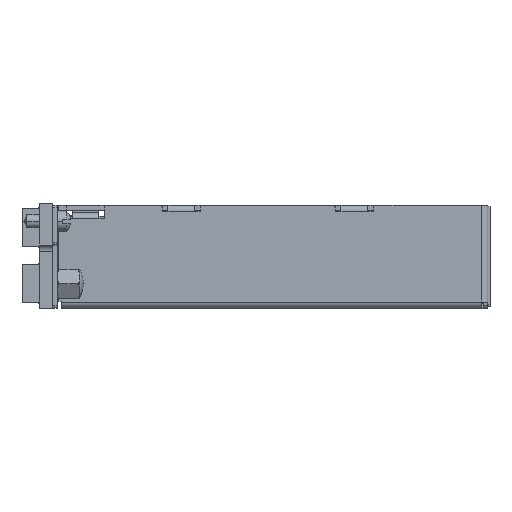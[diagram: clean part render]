
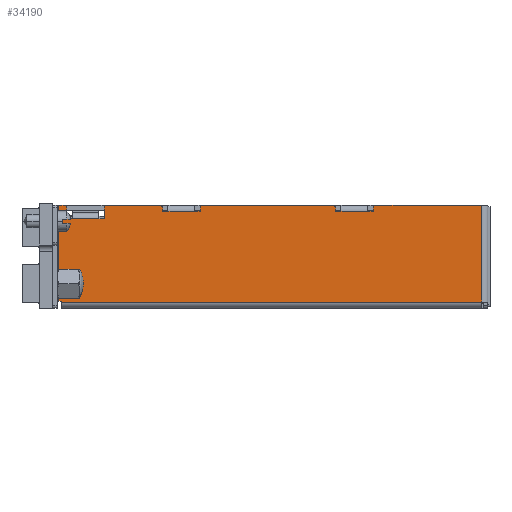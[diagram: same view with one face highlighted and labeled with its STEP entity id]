
A CAD part, front view. The second image highlights one B-rep face of the part: STEP entity #34190.
In plain terms, the highlighted planar face has unit normal (0, -1, 0).
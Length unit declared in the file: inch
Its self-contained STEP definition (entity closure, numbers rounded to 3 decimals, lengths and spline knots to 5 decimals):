
#2154=CARTESIAN_POINT('',(-3.149,0.7087,0.71099));
#2155=DIRECTION('',(0.,-1.,0.));
#2156=DIRECTION('',(1.,0.,0.));
#2157=AXIS2_PLACEMENT_3D('',#2154,#2155,#2156);
#2256=CARTESIAN_POINT('',(-2.829,0.7087,0.71099));
#2257=DIRECTION('',(0.,-1.,0.));
#2258=DIRECTION('',(0.,0.,1.));
#2259=AXIS2_PLACEMENT_3D('',#2256,#2257,#2258);
#2270=DIRECTION('',(-1.,0.,0.));
#2271=VECTOR('',#2270,0.394);
#2272=CARTESIAN_POINT('',(-2.435,0.7087,0.73099));
#2273=LINE('',#2272,#2271);
#2287=CARTESIAN_POINT('',(-2.435,0.7087,0.71099));
#2288=DIRECTION('',(0.,-1.,0.));
#2289=DIRECTION('',(1.,0.,0.));
#2290=AXIS2_PLACEMENT_3D('',#2287,#2288,#2289);
#2368=DIRECTION('',(0.,0.,-1.));
#2369=VECTOR('',#2368,0.082);
#2370=CARTESIAN_POINT('',(-3.129,0.7087,0.71099));
#2371=LINE('',#2370,#2369);
#2372=DIRECTION('',(1.,0.,0.));
#2373=VECTOR('',#2372,0.04);
#2374=CARTESIAN_POINT('',(-3.129,0.7087,0.62899));
#2375=LINE('',#2374,#2373);
#2376=DIRECTION('',(-1.,0.,0.));
#2377=VECTOR('',#2376,0.2);
#2378=CARTESIAN_POINT('',(-2.889,0.7087,0.62899));
#2379=LINE('',#2378,#2377);
#2380=DIRECTION('',(1.,0.,0.));
#2381=VECTOR('',#2380,0.04);
#2382=CARTESIAN_POINT('',(-2.889,0.7087,0.62899));
#2383=LINE('',#2382,#2381);
#2384=DIRECTION('',(0.,0.,-1.));
#2385=VECTOR('',#2384,0.082);
#2386=CARTESIAN_POINT('',(-2.849,0.7087,0.71099));
#2387=LINE('',#2386,#2385);
#2388=DIRECTION('',(0.,0.,-1.));
#2389=VECTOR('',#2388,0.026);
#2390=CARTESIAN_POINT('',(-2.415,0.7087,0.71099));
#2391=LINE('',#2390,#2389);
#2392=DIRECTION('',(-1.,0.,0.));
#2393=VECTOR('',#2392,0.04);
#2394=CARTESIAN_POINT('',(-2.375,0.7087,0.68499));
#2395=LINE('',#2394,#2393);
#2396=DIRECTION('',(-1.,0.,0.));
#2397=VECTOR('',#2396,0.2);
#2398=CARTESIAN_POINT('',(-2.175,0.7087,0.68499));
#2399=LINE('',#2398,#2397);
#2400=DIRECTION('',(-1.,0.,0.));
#2401=VECTOR('',#2400,0.04);
#2402=CARTESIAN_POINT('',(-2.135,0.7087,0.68499));
#2403=LINE('',#2402,#2401);
#2404=DIRECTION('',(0.,0.,-1.));
#2405=VECTOR('',#2404,0.026);
#2406=CARTESIAN_POINT('',(-2.135,0.7087,0.71099));
#2407=LINE('',#2406,#2405);
#2408=DIRECTION('',(0.,0.,-1.));
#2409=VECTOR('',#2408,0.026);
#2410=CARTESIAN_POINT('',(-1.125,0.7087,0.71099));
#2411=LINE('',#2410,#2409);
#2412=DIRECTION('',(1.,0.,0.));
#2413=VECTOR('',#2412,0.04);
#2414=CARTESIAN_POINT('',(-1.125,0.7087,0.68499));
#2415=LINE('',#2414,#2413);
#2416=DIRECTION('',(-1.,0.,0.));
#2417=VECTOR('',#2416,0.2);
#2418=CARTESIAN_POINT('',(-0.885,0.7087,0.68499));
#2419=LINE('',#2418,#2417);
#2420=DIRECTION('',(1.,0.,0.));
#2421=VECTOR('',#2420,0.04);
#2422=CARTESIAN_POINT('',(-0.885,0.7087,0.68499));
#2423=LINE('',#2422,#2421);
#2424=DIRECTION('',(0.,0.,-1.));
#2425=VECTOR('',#2424,0.026);
#2426=CARTESIAN_POINT('',(-0.845,0.7087,0.71099));
#2427=LINE('',#2426,#2425);
#2428=DIRECTION('',(0.,0.,1.));
#2429=VECTOR('',#2428,0.72099);
#2430=CARTESIAN_POINT('',(-0.035,0.7087,0.01));
#2431=LINE('',#2430,#2429);
#2432=DIRECTION('',(0.,0.,1.));
#2433=VECTOR('',#2432,0.00629);
#2434=CARTESIAN_POINT('',(-3.169,0.7087,0.01));
#2435=LINE('',#2434,#2433);
#2436=DIRECTION('',(-1.,0.,0.));
#2437=VECTOR('',#2436,0.02);
#2438=CARTESIAN_POINT('',(-3.169,0.7087,0.01629));
#2439=LINE('',#2438,#2437);
#2440=DIRECTION('',(0.,0.,1.));
#2441=VECTOR('',#2440,0.7147);
#2442=CARTESIAN_POINT('',(-3.189,0.7087,0.01629));
#2443=LINE('',#2442,#2441);
#2461=CARTESIAN_POINT('',(-2.115,0.7087,0.71099));
#2462=DIRECTION('',(0.,-1.,0.));
#2463=DIRECTION('',(0.,0.,1.));
#2464=AXIS2_PLACEMENT_3D('',#2461,#2462,#2463);
#2466=DIRECTION('',(-1.,0.,0.));
#2467=VECTOR('',#2466,0.97);
#2468=CARTESIAN_POINT('',(-1.145,0.7087,0.73099));
#2469=LINE('',#2468,#2467);
#2474=CARTESIAN_POINT('',(-1.145,0.7087,0.71099));
#2475=DIRECTION('',(0.,-1.,0.));
#2476=DIRECTION('',(1.,0.,0.));
#2477=AXIS2_PLACEMENT_3D('',#2474,#2475,#2476);
#2576=CARTESIAN_POINT('',(-0.825,0.7087,0.71099));
#2577=DIRECTION('',(0.,-1.,0.));
#2578=DIRECTION('',(0.,0.,1.));
#2579=AXIS2_PLACEMENT_3D('',#2576,#2577,#2578);
#2594=DIRECTION('',(-1.,0.,0.));
#2595=VECTOR('',#2594,0.79);
#2596=CARTESIAN_POINT('',(-0.035,0.7087,0.73099));
#2597=LINE('',#2596,#2595);
#3175=DIRECTION('',(-1.,0.,0.));
#3176=VECTOR('',#3175,3.134);
#3177=CARTESIAN_POINT('',(-0.035,0.7087,0.01));
#3178=LINE('',#3177,#3176);
#4100=DIRECTION('',(-1.,0.,0.));
#4101=VECTOR('',#4100,0.04);
#4102=CARTESIAN_POINT('',(-3.149,0.7087,0.73099));
#4103=LINE('',#4102,#4101);
#23572=CARTESIAN_POINT('',(-3.169,0.7087,0.01629));
#23574=VERTEX_POINT('',#23572);
#23593=CARTESIAN_POINT('',(-3.169,0.7087,0.01));
#23594=VERTEX_POINT('',#23593);
#23597=CARTESIAN_POINT('',(-3.189,0.7087,0.01629));
#23598=VERTEX_POINT('',#23597);
#23603=CARTESIAN_POINT('',(-3.189,0.7087,0.73099));
#23604=VERTEX_POINT('',#23603);
#23669=CARTESIAN_POINT('',(-0.035,0.7087,0.01));
#23670=VERTEX_POINT('',#23669);
#23675=CARTESIAN_POINT('',(-0.035,0.7087,0.73099));
#23676=VERTEX_POINT('',#23675);
#23811=CARTESIAN_POINT('',(-2.135,0.7087,0.68499));
#23813=VERTEX_POINT('',#23811);
#23815=CARTESIAN_POINT('',(-2.415,0.7087,0.68499));
#23817=VERTEX_POINT('',#23815);
#23827=CARTESIAN_POINT('',(-2.375,0.7087,0.68499));
#23828=VERTEX_POINT('',#23827);
#23829=CARTESIAN_POINT('',(-2.175,0.7087,0.68499));
#23830=VERTEX_POINT('',#23829);
#23844=CARTESIAN_POINT('',(-1.125,0.7087,0.68499));
#23846=VERTEX_POINT('',#23844);
#23848=CARTESIAN_POINT('',(-0.845,0.7087,0.68499));
#23850=VERTEX_POINT('',#23848);
#23863=CARTESIAN_POINT('',(-0.885,0.7087,0.68499));
#23864=VERTEX_POINT('',#23863);
#23865=CARTESIAN_POINT('',(-1.085,0.7087,0.68499));
#23866=VERTEX_POINT('',#23865);
#23876=CARTESIAN_POINT('',(-3.129,0.7087,0.62899));
#23878=VERTEX_POINT('',#23876);
#23880=CARTESIAN_POINT('',(-2.849,0.7087,0.62899));
#23882=VERTEX_POINT('',#23880);
#23887=CARTESIAN_POINT('',(-3.089,0.7087,0.62899));
#23888=VERTEX_POINT('',#23887);
#23889=CARTESIAN_POINT('',(-2.889,0.7087,0.62899));
#23890=VERTEX_POINT('',#23889);
#24041=CARTESIAN_POINT('',(-3.129,0.7087,0.71099));
#24043=VERTEX_POINT('',#24041);
#24045=CARTESIAN_POINT('',(-3.149,0.7087,0.73099));
#24046=VERTEX_POINT('',#24045);
#24049=CARTESIAN_POINT('',(-2.829,0.7087,0.73099));
#24051=VERTEX_POINT('',#24049);
#24053=CARTESIAN_POINT('',(-2.849,0.7087,0.71099));
#24054=VERTEX_POINT('',#24053);
#24058=CARTESIAN_POINT('',(-2.435,0.7087,0.73099));
#24060=VERTEX_POINT('',#24058);
#24063=CARTESIAN_POINT('',(-2.415,0.7087,0.71099));
#24064=VERTEX_POINT('',#24063);
#24066=CARTESIAN_POINT('',(-2.135,0.7087,0.71099));
#24068=VERTEX_POINT('',#24066);
#24071=CARTESIAN_POINT('',(-2.115,0.7087,0.73099));
#24072=VERTEX_POINT('',#24071);
#24073=CARTESIAN_POINT('',(-1.125,0.7087,0.71099));
#24075=VERTEX_POINT('',#24073);
#24077=CARTESIAN_POINT('',(-1.145,0.7087,0.73099));
#24078=VERTEX_POINT('',#24077);
#24081=CARTESIAN_POINT('',(-0.825,0.7087,0.73099));
#24083=VERTEX_POINT('',#24081);
#24085=CARTESIAN_POINT('',(-0.845,0.7087,0.71099));
#24086=VERTEX_POINT('',#24085);
#34136=CARTESIAN_POINT('',(0.,0.7087,0.73099));
#34137=DIRECTION('',(0.,1.,0.));
#34138=DIRECTION('',(-1.,0.,0.));
#34139=AXIS2_PLACEMENT_3D('',#34136,#34137,#34138);
#34140=PLANE('',#34139);
#34141=ORIENTED_EDGE('',*,*,#33762,.F.);
#34142=ORIENTED_EDGE('',*,*,#33779,.T.);
#34143=ORIENTED_EDGE('',*,*,#33791,.T.);
#34144=ORIENTED_EDGE('',*,*,#33892,.F.);
#34145=ORIENTED_EDGE('',*,*,#33933,.T.);
#34146=ORIENTED_EDGE('',*,*,#33945,.F.);
#34147=ORIENTED_EDGE('',*,*,#33959,.F.);
#34148=ORIENTED_EDGE('',*,*,#33975,.F.);
#34149=ORIENTED_EDGE('',*,*,#33989,.F.);
#34150=ORIENTED_EDGE('',*,*,#34003,.T.);
#34151=ORIENTED_EDGE('',*,*,#34015,.F.);
#34152=ORIENTED_EDGE('',*,*,#34130,.F.);
#34154=ORIENTED_EDGE('',*,*,#34153,.F.);
#34156=ORIENTED_EDGE('',*,*,#34155,.F.);
#34158=ORIENTED_EDGE('',*,*,#34157,.F.);
#34160=ORIENTED_EDGE('',*,*,#34159,.F.);
#34162=ORIENTED_EDGE('',*,*,#34161,.F.);
#34164=ORIENTED_EDGE('',*,*,#34163,.T.);
#34166=ORIENTED_EDGE('',*,*,#34165,.T.);
#34168=ORIENTED_EDGE('',*,*,#34167,.F.);
#34170=ORIENTED_EDGE('',*,*,#34169,.T.);
#34172=ORIENTED_EDGE('',*,*,#34171,.F.);
#34174=ORIENTED_EDGE('',*,*,#34173,.F.);
#34176=ORIENTED_EDGE('',*,*,#34175,.F.);
#34178=ORIENTED_EDGE('',*,*,#34177,.F.);
#34180=ORIENTED_EDGE('',*,*,#34179,.T.);
#34181=ORIENTED_EDGE('',*,*,#33684,.T.);
#34183=ORIENTED_EDGE('',*,*,#34182,.T.);
#34185=ORIENTED_EDGE('',*,*,#34184,.T.);
#34187=ORIENTED_EDGE('',*,*,#34186,.F.);
#34188=EDGE_LOOP('',(#34141,#34142,#34143,#34144,#34145,#34146,#34147,#34148,
#34149,#34150,#34151,#34152,#34154,#34156,#34158,#34160,#34162,#34164,#34166,
#34168,#34170,#34172,#34174,#34176,#34178,#34180,#34181,#34183,#34185,#34187));
#34189=FACE_OUTER_BOUND('',#34188,.F.);
#34190=ADVANCED_FACE('',(#34189),#34140,.F.);
#2158=CIRCLE('',#2157,0.02);
#2260=CIRCLE('',#2259,0.02);
#2291=CIRCLE('',#2290,0.02);
#2465=CIRCLE('',#2464,0.02);
#2478=CIRCLE('',#2477,0.02);
#2580=CIRCLE('',#2579,0.02);
#33684=EDGE_CURVE('',#23594,#23574,#2435,.T.);
#33762=EDGE_CURVE('',#24043,#24046,#2158,.T.);
#33779=EDGE_CURVE('',#24043,#23878,#2371,.T.);
#33791=EDGE_CURVE('',#23878,#23888,#2375,.T.);
#33892=EDGE_CURVE('',#23890,#23888,#2379,.T.);
#33933=EDGE_CURVE('',#23890,#23882,#2383,.T.);
#33945=EDGE_CURVE('',#24054,#23882,#2387,.T.);
#33959=EDGE_CURVE('',#24051,#24054,#2260,.T.);
#33975=EDGE_CURVE('',#24060,#24051,#2273,.T.);
#33989=EDGE_CURVE('',#24064,#24060,#2291,.T.);
#34003=EDGE_CURVE('',#24064,#23817,#2391,.T.);
#34015=EDGE_CURVE('',#23828,#23817,#2395,.T.);
#34130=EDGE_CURVE('',#23830,#23828,#2399,.T.);
#34153=EDGE_CURVE('',#23813,#23830,#2403,.T.);
#34155=EDGE_CURVE('',#24068,#23813,#2407,.T.);
#34157=EDGE_CURVE('',#24072,#24068,#2465,.T.);
#34159=EDGE_CURVE('',#24078,#24072,#2469,.T.);
#34161=EDGE_CURVE('',#24075,#24078,#2478,.T.);
#34163=EDGE_CURVE('',#24075,#23846,#2411,.T.);
#34165=EDGE_CURVE('',#23846,#23866,#2415,.T.);
#34167=EDGE_CURVE('',#23864,#23866,#2419,.T.);
#34169=EDGE_CURVE('',#23864,#23850,#2423,.T.);
#34171=EDGE_CURVE('',#24086,#23850,#2427,.T.);
#34173=EDGE_CURVE('',#24083,#24086,#2580,.T.);
#34175=EDGE_CURVE('',#23676,#24083,#2597,.T.);
#34177=EDGE_CURVE('',#23670,#23676,#2431,.T.);
#34179=EDGE_CURVE('',#23670,#23594,#3178,.T.);
#34182=EDGE_CURVE('',#23574,#23598,#2439,.T.);
#34184=EDGE_CURVE('',#23598,#23604,#2443,.T.);
#34186=EDGE_CURVE('',#24046,#23604,#4103,.T.);
